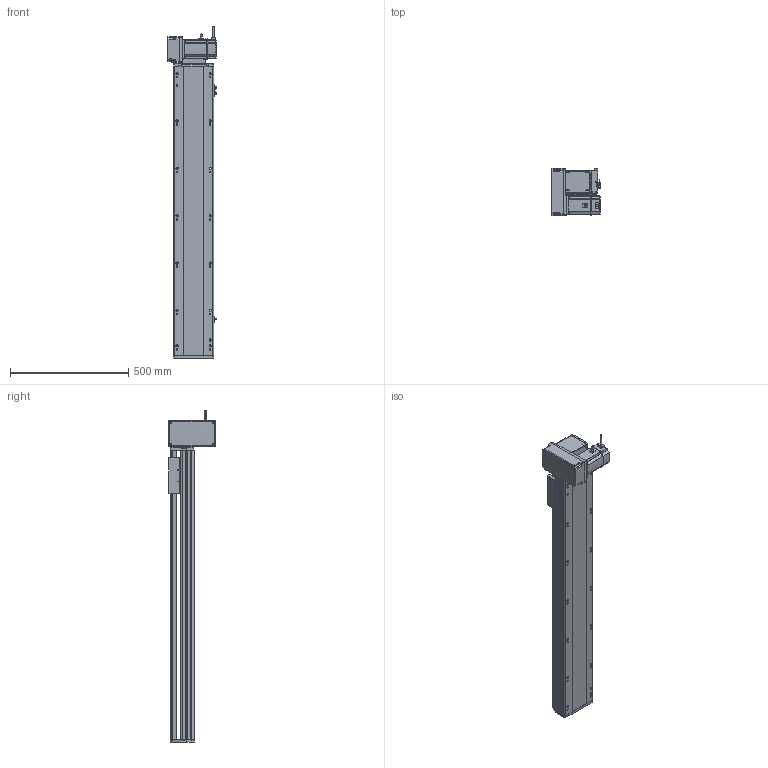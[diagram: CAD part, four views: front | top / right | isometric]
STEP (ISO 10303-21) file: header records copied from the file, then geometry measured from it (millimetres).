
FILE_DESCRIPTION (( 'STEP AP214' ), '1' );
FILE_NAME ('RTB17S-XX-950-LM-M75-C4.STEP', '2025-12-12T00:37:56', ( '' ), ( '' ), 'SwSTEP 2.0', 'SolidWorks 2018', '' );
FILE_SCHEMA (( 'AUTOMOTIVE_DESIGN' ));
Length unit declared in the file: millimetre
Products named in the file (15): EE672^RTB17S-XX-XX-LM-M75-C4; RTB17S-XX-950-LM-M75-C4; RTB17S-LM-々湍釱蚾饜-750W^RTB17S-XX-XX-LM-M75-C4; RTB22S-GY-017P^RTB17S-LM-々湍釱蚾饜-750W_RTB17S-XX-XX-LM-M75-C4; RTB22S-GY-005P^RTB17S-LM-々湍釱蚾饜-750W_RTB17S-XX-XX-LM-M75-C4; RTB17S-L-014-T20-P75--々湍釱^RTB17S-LM-々湍釱蚾饜-750W_RTB17S-XX-XX-LM-M75-C4; RTH13-BL-012覜茼え俋离^RTB17S-賑釱_RTB17S-XX-XX-LM-M75-C4; RTB17S-L-007奻裔^RTB17S-XX-XX-LM-M75-C4; RTB22S-GY-008-M75--萇儂啣^RTB17S-LM-々湍釱蚾饜-750W_RTB17S-XX-XX-LM-M75-C4; RTB17S-L-004-賑釱^RTB17S-賑釱_RTB17S-XX-XX-LM-M75-C4; RTB17-R-011菁釱^RTB17S-XX-XX-LM-M75-C4; RTB17S-L-001-耜醱啣^RTB17S-XX-XX-LM-M75-C4; RTB22S-GY-018P^RTB17S-LM-々湍釱蚾饜-750W_RTB17S-XX-XX-LM-M75-C4; 750W萇儂^RTB17S-XX-XX-LM-M75-C4; RTB17S-賑釱^RTB17S-XX-XX-LM-M75-C4
Assembly tree (17 placements, depth 3):
  RTB17S-XX-950-LM-M75-C4
    RTB17-R-011菁釱^RTB17S-XX-XX-LM-M75-C4
    EE672^RTB17S-XX-XX-LM-M75-C4  x3
    RTB17S-L-001-耜醱啣^RTB17S-XX-XX-LM-M75-C4
    RTB17S-賑釱^RTB17S-XX-XX-LM-M75-C4
      RTB17S-L-004-賑釱^RTB17S-賑釱_RTB17S-XX-XX-LM-M75-C4
      RTH13-BL-012覜茼え俋离^RTB17S-賑釱_RTB17S-XX-XX-LM-M75-C4
    RTB17S-L-007奻裔^RTB17S-XX-XX-LM-M75-C4
    750W萇儂^RTB17S-XX-XX-LM-M75-C4
    RTB17S-LM-々湍釱蚾饜-750W^RTB17S-XX-XX-LM-M75-C4
      RTB17S-L-014-T20-P75--々湍釱^RTB17S-LM-々湍釱蚾饜-750W_RTB17S-XX-XX-LM-M75-C4
      RTB22S-GY-005P^RTB17S-LM-々湍釱蚾饜-750W_RTB17S-XX-XX-LM-M75-C4
      RTB22S-GY-017P^RTB17S-LM-々湍釱蚾饜-750W_RTB17S-XX-XX-LM-M75-C4  x2
      RTB22S-GY-008-M75--萇儂啣^RTB17S-LM-々湍釱蚾饜-750W_RTB17S-XX-XX-LM-M75-C4
      RTB22S-GY-018P^RTB17S-LM-々湍釱蚾饜-750W_RTB17S-XX-XX-LM-M75-C4
Bounding box: 210.4 x 200 x 1402.2 mm (x, y, z)
Volume: 11888581.1 mm3; surface area: 2009502.6 mm2
Topology: 17 solids, 17 shells, 2089 faces, 5782 edges, 3734 vertices
Faces by surface type: plane 970, cylinder 703, bspline 294, cone 110, sphere 8, torus 4
Entity records: 58102 total; most frequent: CARTESIAN_POINT 17046, ORIENTED_EDGE 8408, DIRECTION 7862, EDGE_CURVE 4204, AXIS2_PLACEMENT_3D 2754, VERTEX_POINT 2738, VECTOR 2354, LINE 2354
